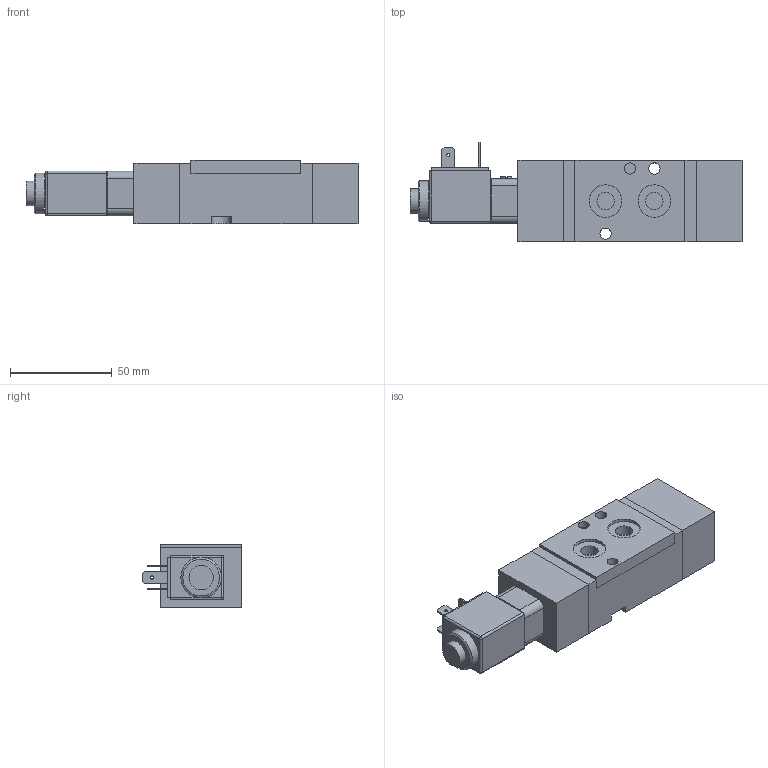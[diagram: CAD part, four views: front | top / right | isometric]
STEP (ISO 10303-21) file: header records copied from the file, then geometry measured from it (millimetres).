
FILE_DESCRIPTION((''),'2;1');
FILE_NAME('I:\Area Tecnica\Disegni\VARIE-3D\Componenti\T514\3D\T514_52_00_39_B#.stp','2008-05-09T11:20:39',('foiengi1'),(''),'Autodesk Inventor 2008','Autodesk Inventor 2008','');
FILE_SCHEMA(('AUTOMOTIVE_DESIGN { 1 0 10303 214 1 1 1 1 }'));
Length unit declared in the file: millimetre
Products named in the file (3): T514_52_00_39_B#; T514_52_00_39_B00; MB
Assembly tree (2 placements, depth 2):
  T514_52_00_39_B#
    T514_52_00_39_B00
    MB
Bounding box: 163 x 49 x 31 mm (x, y, z)
Volume: 153111.8 mm3; surface area: 28816.5 mm2
Topology: 2 solids, 2 shells, 151 faces, 334 edges, 217 vertices
Faces by surface type: plane 87, bspline 33, cylinder 28, sphere 2, cone 1
Full cylindrical faces by diameter (mm): 5.5 x3, 7.4 x1, 8.2 x3, 9.8 x1, 10 x1, 10.2 x1, 12 x1, 13 x1, 13.5 x1, 16 x2, 16.2 x1, 20 x1
Entity records: 4419 total; most frequent: CARTESIAN_POINT 1036, DIRECTION 629, ORIENTED_EDGE 578, EDGE_CURVE 289, EDGE_LOOP 233, AXIS2_PLACEMENT_3D 217, VERTEX_POINT 212, VECTOR 195
